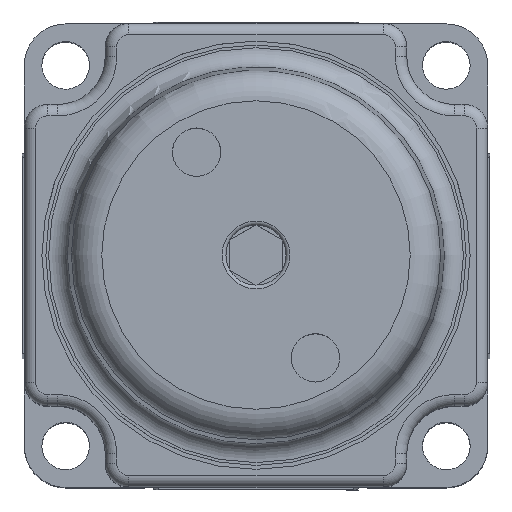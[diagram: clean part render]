
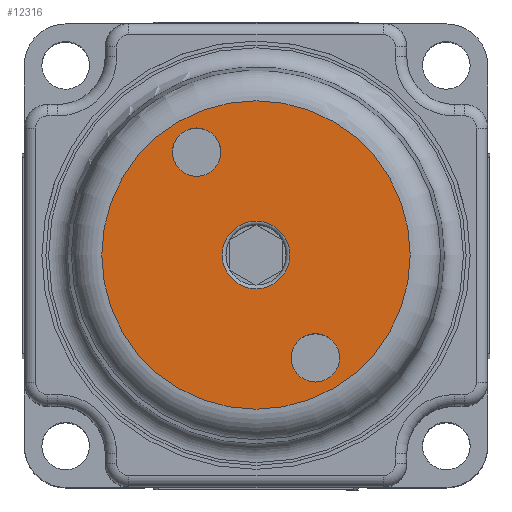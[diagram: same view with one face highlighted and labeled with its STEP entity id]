
A CAD part, top view. The second image highlights one B-rep face of the part: STEP entity #12316.
In plain terms, the highlighted planar face has unit normal (0, 0, 1).
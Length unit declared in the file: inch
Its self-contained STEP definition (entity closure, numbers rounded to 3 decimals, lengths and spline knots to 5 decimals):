
#80=FACE_BOUND('',#1676,.T.);
#81=FACE_BOUND('',#1677,.T.);
#82=FACE_BOUND('',#1678,.T.);
#528=PLANE('',#13213);
#950=FACE_OUTER_BOUND('',#1675,.T.);
#1675=EDGE_LOOP('',(#8224,#8225));
#1676=EDGE_LOOP('',(#8226,#8227));
#1677=EDGE_LOOP('',(#8228,#8229));
#1678=EDGE_LOOP('',(#8230,#8231));
#2420=CIRCLE('',#13200,0.089);
#2425=CIRCLE('',#13205,0.089);
#2432=CIRCLE('',#13214,0.4051);
#2433=CIRCLE('',#13215,0.4051);
#2434=CIRCLE('',#13216,0.0635);
#2435=CIRCLE('',#13217,0.0635);
#2436=CIRCLE('',#13218,0.0635);
#2437=CIRCLE('',#13219,0.0635);
#4827=VERTEX_POINT('',#20706);
#4828=VERTEX_POINT('',#20707);
#4838=VERTEX_POINT('',#20732);
#4839=VERTEX_POINT('',#20733);
#4840=VERTEX_POINT('',#20736);
#4841=VERTEX_POINT('',#20737);
#4842=VERTEX_POINT('',#20740);
#4843=VERTEX_POINT('',#20741);
#6112=EDGE_CURVE('',#4827,#4828,#2420,.T.);
#6117=EDGE_CURVE('',#4828,#4827,#2425,.T.);
#6125=EDGE_CURVE('',#4838,#4839,#2432,.T.);
#6126=EDGE_CURVE('',#4839,#4838,#2433,.T.);
#6127=EDGE_CURVE('',#4840,#4841,#2434,.T.);
#6128=EDGE_CURVE('',#4841,#4840,#2435,.T.);
#6129=EDGE_CURVE('',#4842,#4843,#2436,.T.);
#6130=EDGE_CURVE('',#4843,#4842,#2437,.T.);
#8224=ORIENTED_EDGE('',*,*,#6125,.T.);
#8225=ORIENTED_EDGE('',*,*,#6126,.T.);
#8226=ORIENTED_EDGE('',*,*,#6127,.T.);
#8227=ORIENTED_EDGE('',*,*,#6128,.T.);
#8228=ORIENTED_EDGE('',*,*,#6129,.T.);
#8229=ORIENTED_EDGE('',*,*,#6130,.T.);
#8230=ORIENTED_EDGE('',*,*,#6112,.F.);
#8231=ORIENTED_EDGE('',*,*,#6117,.F.);
#12316=ADVANCED_FACE('',(#950,#80,#81,#82),#528,.T.);
#13200=AXIS2_PLACEMENT_3D('',#20708,#15192,#15193);
#13205=AXIS2_PLACEMENT_3D('',#20716,#15202,#15203);
#13213=AXIS2_PLACEMENT_3D('',#20731,#15219,#15220);
#13214=AXIS2_PLACEMENT_3D('',#20734,#15221,#15222);
#13215=AXIS2_PLACEMENT_3D('',#20735,#15223,#15224);
#13216=AXIS2_PLACEMENT_3D('',#20738,#15225,#15226);
#13217=AXIS2_PLACEMENT_3D('',#20739,#15227,#15228);
#13218=AXIS2_PLACEMENT_3D('',#20742,#15229,#15230);
#13219=AXIS2_PLACEMENT_3D('',#20743,#15231,#15232);
#15192=DIRECTION('center_axis',(0.,0.,
1.));
#15193=DIRECTION('ref_axis',(0.5,-0.866,0.));
#15202=DIRECTION('center_axis',(0.,0.,
1.));
#15203=DIRECTION('ref_axis',(0.5,-0.866,0.));
#15219=DIRECTION('center_axis',(0.,0.,1.));
#15220=DIRECTION('ref_axis',(1.,0.,0.));
#15221=DIRECTION('center_axis',(0.,0.,1.));
#15222=DIRECTION('ref_axis',(-0.5,0.866,0.));
#15223=DIRECTION('center_axis',(0.,0.,1.));
#15224=DIRECTION('ref_axis',(-0.5,0.866,0.));
#15225=DIRECTION('center_axis',(0.,0.,-1.));
#15226=DIRECTION('ref_axis',(0.414,0.91,0.));
#15227=DIRECTION('center_axis',(0.,0.,-1.));
#15228=DIRECTION('ref_axis',(0.414,0.91,0.));
#15229=DIRECTION('center_axis',(0.,0.,-1.));
#15230=DIRECTION('ref_axis',(0.414,0.91,0.));
#15231=DIRECTION('center_axis',(0.,0.,-1.));
#15232=DIRECTION('ref_axis',(0.414,0.91,0.));
#20706=CARTESIAN_POINT('',(0.18699,-0.058,0.9997));
#20707=CARTESIAN_POINT('',(0.19891,-0.1025,0.9997));
#20708=CARTESIAN_POINT('Origin',(0.10991,-0.1025,0.9997));
#20716=CARTESIAN_POINT('Origin',(0.10991,-0.1025,0.9997));
#20731=CARTESIAN_POINT('Origin',(-0.24126,-0.30525,
0.9997));
#20732=CARTESIAN_POINT('',(0.46074,0.10005,0.9997));
#20733=CARTESIAN_POINT('',(-0.29519,-0.1025,0.9997));
#20734=CARTESIAN_POINT('Origin',(0.10991,-0.1025,0.9997));
#20735=CARTESIAN_POINT('Origin',(0.10991,-0.1025,0.9997));
#20736=CARTESIAN_POINT('',(0.0089,0.19945,0.9997));
#20737=CARTESIAN_POINT('',(-0.10108,0.13595,0.9997));
#20738=CARTESIAN_POINT('Origin',(-0.04609,0.1677,
0.9997));
#20739=CARTESIAN_POINT('Origin',(-0.04609,0.1677,
0.9997));
#20740=CARTESIAN_POINT('',(0.3209,-0.34095,0.9997));
#20741=CARTESIAN_POINT('',(0.21092,-0.40445,0.9997));
#20742=CARTESIAN_POINT('Origin',(0.26591,-0.3727,0.9997));
#20743=CARTESIAN_POINT('Origin',(0.26591,-0.3727,0.9997));
